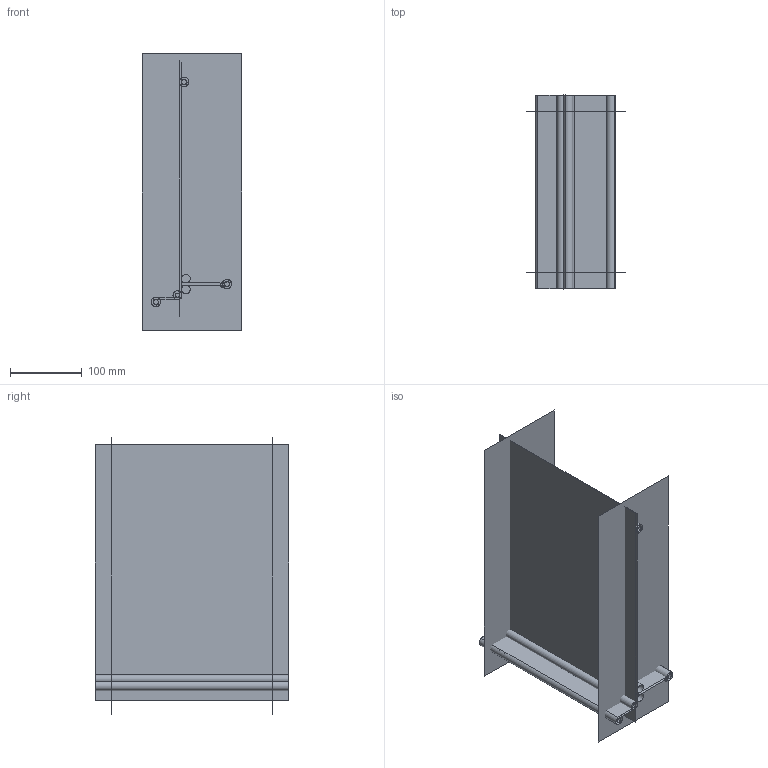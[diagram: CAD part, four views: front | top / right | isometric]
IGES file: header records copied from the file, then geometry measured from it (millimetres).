
Global section: file name: C:\Users\utente\Desktop\DANESE RG\3D Danese\archiviovivo\archiviovivo S.igs; native system: Rhinoceros ( Mar  9 2011 ); preprocessor: Trout Lake IGES 012 Mar  9 2011; date: 170412.095524; units: millimetre
Bounding box: 138.27 x 270 x 385.55 mm (x, y, z)
Surface area: 450815.4 mm2 (no closed solid volume)
Topology: 0 solids, 0 shells, 28 faces, 97 edges, 82 vertices
Faces by surface type: bspline 28
